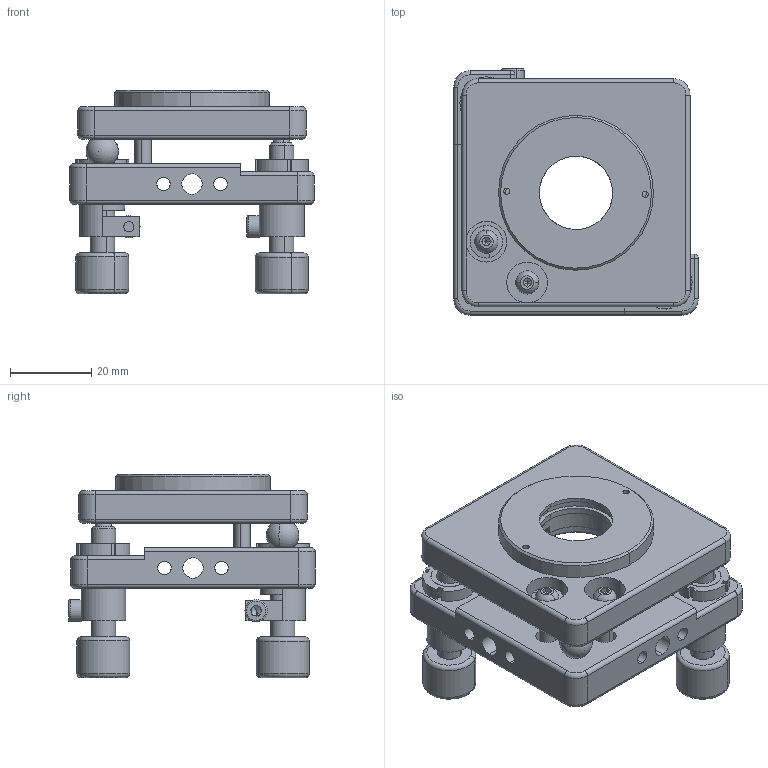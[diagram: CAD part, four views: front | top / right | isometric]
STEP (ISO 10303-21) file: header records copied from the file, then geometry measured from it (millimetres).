
FILE_DESCRIPTION (( 'STEP AP203' ), '1' );
FILE_NAME ('7MM0520謗峎覃淕噩殤.STEP', '2019-10-17T08:54:53', ( '' ), ( '' ), 'SwSTEP 2.0', 'SolidWorks 2014', '' );
FILE_SCHEMA (( 'CONFIG_CONTROL_DESIGN' ));
Length unit declared in the file: millimetre
Products named in the file (1): 7MM0520謗峎覃淕噩殤
Bounding box: 60 x 60.5 x 49.94 mm (x, y, z)
Surface area: 21553.1 mm2 (no closed solid volume)
Topology: 0 solids, 36 shells, 373 faces, 984 edges, 627 vertices
Faces by surface type: plane 167, cylinder 137, torus 26, cone 25, sphere 18
Entity records: 11829 total; most frequent: CARTESIAN_POINT 2447, DIRECTION 2108, ORIENTED_EDGE 1709, EDGE_CURVE 959, AXIS2_PLACEMENT_3D 803, VERTEX_POINT 618, LINE 502, VECTOR 502
